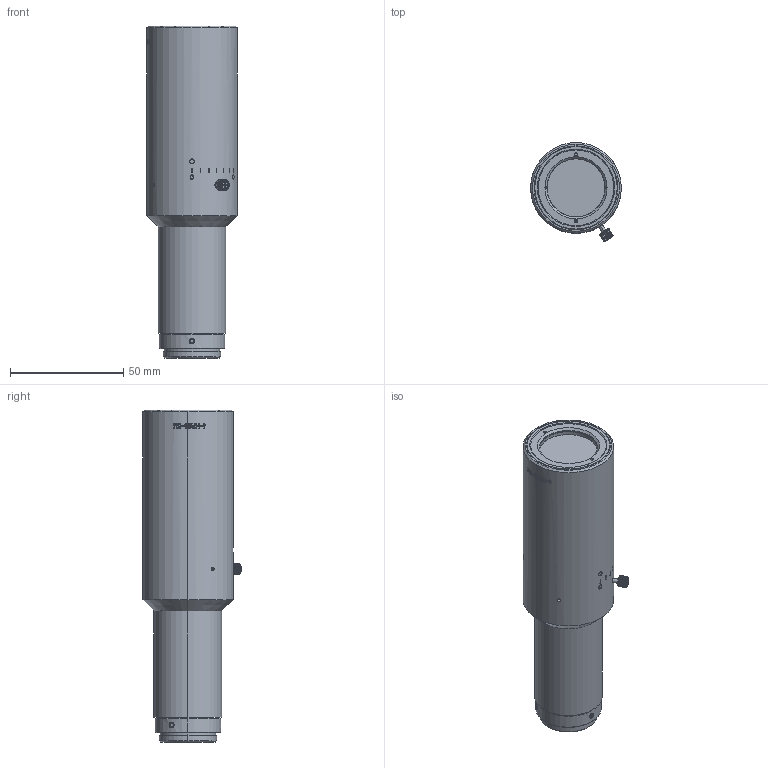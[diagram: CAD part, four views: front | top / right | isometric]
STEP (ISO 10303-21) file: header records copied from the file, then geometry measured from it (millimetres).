
FILE_DESCRIPTION (( 'STEP AP203' ), '1' );
FILE_NAME ('MML4-HR65VI-5M_A04219A0000101A.STEP', '2014-07-15T02:17:53', ( '' ), ( '' ), 'SwSTEP 2.0', 'SolidWorks 2011', '' );
FILE_SCHEMA (( 'CONFIG_CONTROL_DESIGN' ));
Products named in the file (1): MML4-HR65VI-5M_A04219A0000101A
Bounding box: 40 x 43.58 x 146.57 mm (x, y, z)
Volume: 128089.7 mm3; surface area: 25947.8 mm2
Topology: 1 solids, 6 shells, 633 faces, 1651 edges, 1066 vertices
Faces by surface type: plane 244, cylinder 157, cone 114, bspline 112, torus 4, sphere 2
Entity records: 30554 total; most frequent: CARTESIAN_POINT 16188, ORIENTED_EDGE 3286, DIRECTION 2468, EDGE_CURVE 1643, VERTEX_POINT 1066, AXIS2_PLACEMENT_3D 960, EDGE_LOOP 699, B_SPLINE_CURVE_WITH_KNOTS 652
